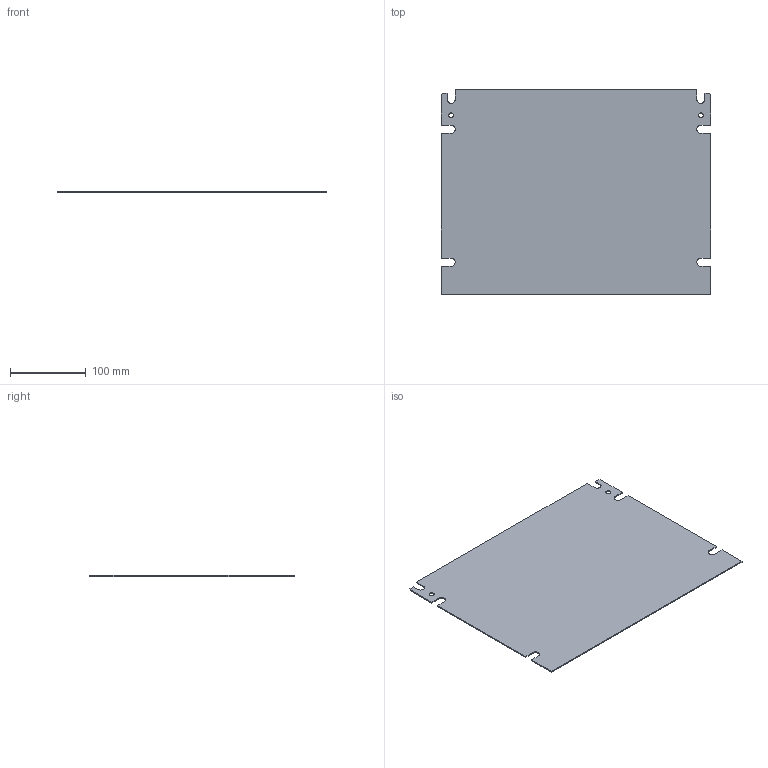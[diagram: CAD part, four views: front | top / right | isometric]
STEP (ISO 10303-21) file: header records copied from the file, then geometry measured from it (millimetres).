
FILE_DESCRIPTION (( 'STEP AP203' ), '1' );
FILE_NAME ('g600p400h.STEP', '2010-01-29T17:12:39', ( 'Hoffman User' ), ( 'Hoffman Enclosures' ), 'SwSTEP 2.0', 'SolidWorks 2009', '' );
FILE_SCHEMA (( 'CONFIG_CONTROL_DESIGN' ));
Length unit declared in the file: inch
Products named in the file (2): 87957282; g600p400h
Assembly tree (1 placements, depth 2):
  g600p400h
    87957282
Bounding box: 355 x 270 x 1.4 mm (x, y, z)
Volume: 132166.3 mm3; surface area: 191254.9 mm2
Topology: 1 solids, 1 shells, 38 faces, 108 edges, 72 vertices
Faces by surface type: plane 26, cylinder 12
Entity records: 1444 total; most frequent: CARTESIAN_POINT 222, ORIENTED_EDGE 216, DIRECTION 216, EDGE_CURVE 108, LINE 84, VECTOR 84, VERTEX_POINT 72, AXIS2_PLACEMENT_3D 66
